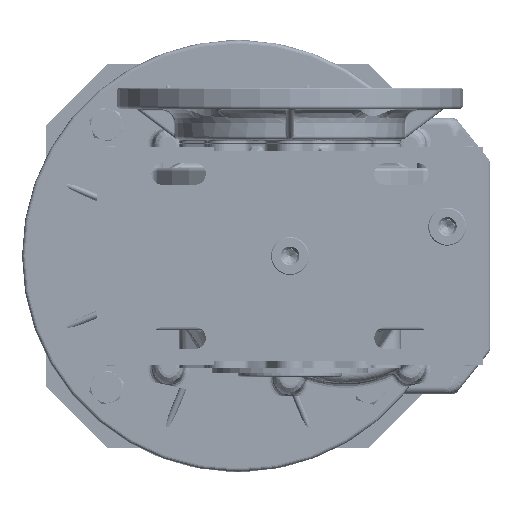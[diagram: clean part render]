
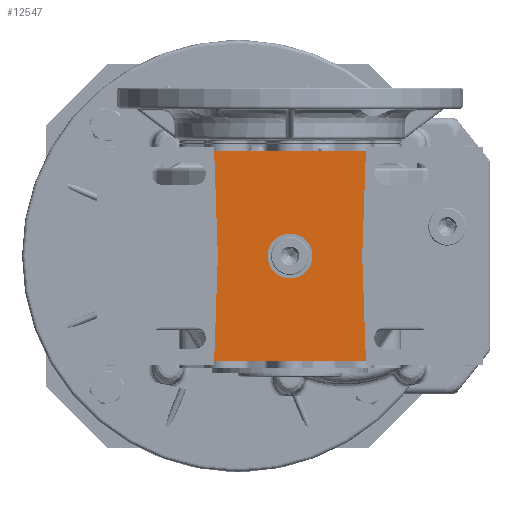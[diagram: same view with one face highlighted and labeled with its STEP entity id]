
A CAD part, left-side view. The second image highlights one B-rep face of the part: STEP entity #12547.
In plain terms, the highlighted planar face has unit normal (-1, 0, 0).
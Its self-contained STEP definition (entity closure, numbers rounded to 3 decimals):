
#10384=CARTESIAN_POINT('',(-109.,-43.93,-61.));
#10385=VERTEX_POINT('',#10384);
#10392=CARTESIAN_POINT('',(-109.,43.93,-61.));
#10393=VERTEX_POINT('',#10392);
#10394=CARTESIAN_POINT('',(-109.,43.93,-61.));
#10395=DIRECTION('',(0.0,-1.0,0.0));
#10396=VECTOR('',#10395,87.86);
#10397=LINE('',#10394,#10396);
#10398=EDGE_CURVE('',#10393,#10385,#10397,.T.);
#11619=CARTESIAN_POINT('',(-109.,41.8,0.0));
#11620=VERTEX_POINT('',#11619);
#11627=CARTESIAN_POINT('',(-109.,43.93,61.));
#11628=VERTEX_POINT('',#11627);
#11629=CARTESIAN_POINT('',(-109.,43.93,61.));
#11630=DIRECTION('',(0.0,-0.035,-0.999));
#11631=VECTOR('',#11630,61.037);
#11632=LINE('',#11629,#11631);
#11633=EDGE_CURVE('',#11628,#11620,#11632,.T.);
#11685=CARTESIAN_POINT('',(-109.,-43.93,61.));
#11686=VERTEX_POINT('',#11685);
#11693=CARTESIAN_POINT('',(-109.,-41.8,0.0));
#11694=VERTEX_POINT('',#11693);
#11695=CARTESIAN_POINT('',(-109.,-41.8,0.0));
#11696=DIRECTION('',(0.0,-0.035,0.999));
#11697=VECTOR('',#11696,61.037);
#11698=LINE('',#11695,#11697);
#11699=EDGE_CURVE('',#11694,#11686,#11698,.T.);
#12508=CARTESIAN_POINT('',(-109.,0.,0.));
#12509=DIRECTION('',(-1.0,0.0,0.0));
#12510=DIRECTION('',(0.0,0.0,1.0));
#12511=AXIS2_PLACEMENT_3D('',#12508,#12509,#12510);
#12512=PLANE('',#12511);
#12513=ORIENTED_EDGE('',*,*,#10398,.T.);
#12514=CARTESIAN_POINT('',(-109.,-43.93,-61.));
#12515=DIRECTION('',(0.0,0.035,0.999));
#12516=VECTOR('',#12515,61.037);
#12517=LINE('',#12514,#12516);
#12518=EDGE_CURVE('',#10385,#11694,#12517,.T.);
#12519=ORIENTED_EDGE('',*,*,#12518,.T.);
#12520=ORIENTED_EDGE('',*,*,#11699,.T.);
#12521=CARTESIAN_POINT('',(-109.,-43.93,61.));
#12522=DIRECTION('',(0.0,1.0,0.0));
#12523=VECTOR('',#12522,87.86);
#12524=LINE('',#12521,#12523);
#12525=EDGE_CURVE('',#11686,#11628,#12524,.T.);
#12526=ORIENTED_EDGE('',*,*,#12525,.T.);
#12527=ORIENTED_EDGE('',*,*,#11633,.T.);
#12528=CARTESIAN_POINT('',(-109.,41.8,0.0));
#12529=DIRECTION('',(0.0,0.035,-0.999));
#12530=VECTOR('',#12529,61.037);
#12531=LINE('',#12528,#12530);
#12532=EDGE_CURVE('',#11620,#10393,#12531,.T.);
#12533=ORIENTED_EDGE('',*,*,#12532,.T.);
#12534=EDGE_LOOP('',(#12513,#12519,#12520,#12526,#12527,#12533));
#12535=FACE_OUTER_BOUND('',#12534,.T.);
#12536=CARTESIAN_POINT('',(-109.,0.,13.));
#12537=VERTEX_POINT('',#12536);
#12538=CARTESIAN_POINT('',(-109.,0.,0.));
#12539=DIRECTION('',(1.0,0.0,0.0));
#12540=DIRECTION('',(0.0,0.0,1.0));
#12541=AXIS2_PLACEMENT_3D('',#12538,#12539,#12540);
#12542=CIRCLE('',#12541,13.0);
#12543=EDGE_CURVE('',#12537,#12537,#12542,.T.);
#12544=ORIENTED_EDGE('',*,*,#12543,.T.);
#12545=EDGE_LOOP('',(#12544));
#12546=FACE_BOUND('',#12545,.T.);
#12547=ADVANCED_FACE('',(#12535,#12546),#12512,.T.);
